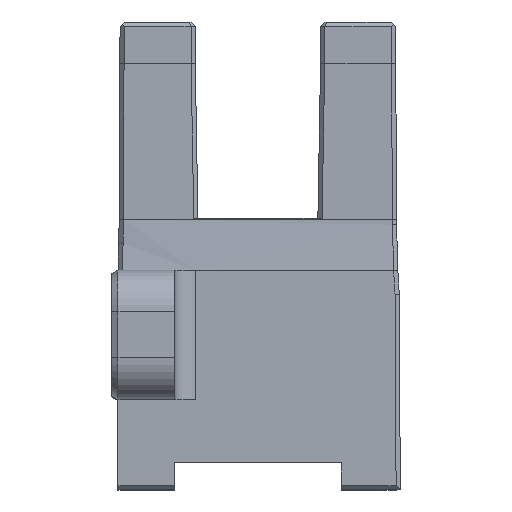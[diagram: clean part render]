
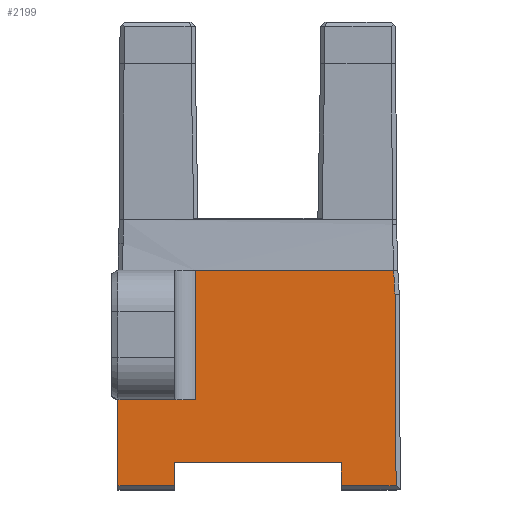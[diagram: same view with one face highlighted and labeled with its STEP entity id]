
A CAD part, top view. The second image highlights one B-rep face of the part: STEP entity #2199.
In plain terms, the highlighted planar face has unit normal (0, 0, 1).
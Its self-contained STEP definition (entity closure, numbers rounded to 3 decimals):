
#23 = DIRECTION ( 'NONE',  ( 0., 1., 0. ) ) ;
#78 = EDGE_CURVE ( 'NONE', #5127, #676, #1684, .T. ) ;
#124 = CARTESIAN_POINT ( 'NONE',  ( -3., 4.3, 3.2 ) ) ;
#182 = VERTEX_POINT ( 'NONE', #3178 ) ;
#214 = DIRECTION ( 'NONE',  ( 1., 0., 0. ) ) ;
#217 = AXIS2_PLACEMENT_3D ( 'NONE', #3069, #3538, #3085 ) ;
#272 = ORIENTED_EDGE ( 'NONE', *, *, #947, .F. ) ;
#292 = CIRCLE ( 'NONE', #2523, 50.2 ) ;
#326 = LINE ( 'NONE', #2356, #2591 ) ;
#341 = ORIENTED_EDGE ( 'NONE', *, *, #2312, .F. ) ;
#410 = LINE ( 'NONE', #2968, #3913 ) ;
#411 = CARTESIAN_POINT ( 'NONE',  ( 4., 0.2, 3.2 ) ) ;
#544 = DIRECTION ( 'NONE',  ( -0.005, 1., 0. ) ) ;
#676 = VERTEX_POINT ( 'NONE', #1127 ) ;
#696 = CARTESIAN_POINT ( 'NONE',  ( 56.64, 12.956, 3.2 ) ) ;
#708 = CARTESIAN_POINT ( 'NONE',  ( -4., 0., 3.2 ) ) ;
#712 = EDGE_CURVE ( 'NONE', #5127, #2606, #410, .T. ) ;
#780 = ORIENTED_EDGE ( 'NONE', *, *, #5330, .T. ) ;
#838 = PLANE ( 'NONE',  #217 ) ;
#890 = FACE_OUTER_BOUND ( 'NONE', #2409, .T. ) ;
#947 = EDGE_CURVE ( 'NONE', #5596, #1504, #5174, .T. ) ;
#1029 = LINE ( 'NONE', #4555, #2987 ) ;
#1049 = DIRECTION ( 'NONE',  ( -1., 0., 0. ) ) ;
#1127 = CARTESIAN_POINT ( 'NONE',  ( -6.7, 0.2, 3.2 ) ) ;
#1353 = LINE ( 'NONE', #5796, #1628 ) ;
#1391 = DIRECTION ( 'NONE',  ( 1., 0., 0. ) ) ;
#1504 = VERTEX_POINT ( 'NONE', #2088 ) ;
#1552 = EDGE_CURVE ( 'NONE', #5310, #2935, #2030, .T. ) ;
#1610 = VECTOR ( 'NONE', #4280, 1000. ) ;
#1628 = VECTOR ( 'NONE', #4134, 1000. ) ;
#1684 = LINE ( 'NONE', #3627, #4145 ) ;
#1734 = EDGE_CURVE ( 'NONE', #4162, #5596, #326, .T. ) ;
#2030 = LINE ( 'NONE', #2337, #2463 ) ;
#2088 = CARTESIAN_POINT ( 'NONE',  ( -4., 0.2, 3.2 ) ) ;
#2147 = CARTESIAN_POINT ( 'NONE',  ( 6.5, 10.5, 3.2 ) ) ;
#2199 = ADVANCED_FACE ( 'NONE', ( #890 ), #838, .T. ) ;
#2296 = VECTOR ( 'NONE', #4833, 1000. ) ;
#2302 = CARTESIAN_POINT ( 'NONE',  ( 4., 0., 3.2 ) ) ;
#2312 = EDGE_CURVE ( 'NONE', #4567, #4162, #3345, .T. ) ;
#2337 = CARTESIAN_POINT ( 'NONE',  ( 6.568, 9.371, 3.2 ) ) ;
#2356 = CARTESIAN_POINT ( 'NONE',  ( 0., 1.3, 3.2 ) ) ;
#2409 = EDGE_LOOP ( 'NONE', ( #5023, #5427, #3870, #780, #3212, #4130, #4370, #272, #4501, #341, #3374 ) ) ;
#2463 = VECTOR ( 'NONE', #544, 1000. ) ;
#2466 = EDGE_CURVE ( 'NONE', #676, #1504, #1029, .T. ) ;
#2523 = AXIS2_PLACEMENT_3D ( 'NONE', #696, #4662, #214 ) ;
#2585 = VECTOR ( 'NONE', #23, 1000. ) ;
#2591 = VECTOR ( 'NONE', #3227, 1000. ) ;
#2606 = VERTEX_POINT ( 'NONE', #124 ) ;
#2903 = EDGE_CURVE ( 'NONE', #4567, #5310, #4305, .T. ) ;
#2917 = VERTEX_POINT ( 'NONE', #2147 ) ;
#2935 = VERTEX_POINT ( 'NONE', #3056 ) ;
#2968 = CARTESIAN_POINT ( 'NONE',  ( -40.729, 4.3, 3.2 ) ) ;
#2987 = VECTOR ( 'NONE', #1391, 1000. ) ;
#3037 = CARTESIAN_POINT ( 'NONE',  ( 0., 0.2, 3.2 ) ) ;
#3056 = CARTESIAN_POINT ( 'NONE',  ( 6.568, 9.365, 3.2 ) ) ;
#3069 = CARTESIAN_POINT ( 'NONE',  ( 0., 0., 3.2 ) ) ;
#3085 = DIRECTION ( 'NONE',  ( 1., 0., 0. ) ) ;
#3166 = CARTESIAN_POINT ( 'NONE',  ( 4., 1.3, 3.2 ) ) ;
#3178 = CARTESIAN_POINT ( 'NONE',  ( -3., 10.5, 3.2 ) ) ;
#3212 = ORIENTED_EDGE ( 'NONE', *, *, #712, .F. ) ;
#3227 = DIRECTION ( 'NONE',  ( -1., 0., 0. ) ) ;
#3345 = LINE ( 'NONE', #2302, #2585 ) ;
#3366 = CARTESIAN_POINT ( 'NONE',  ( -4., 1.3, 3.2 ) ) ;
#3374 = ORIENTED_EDGE ( 'NONE', *, *, #2903, .T. ) ;
#3513 = CARTESIAN_POINT ( 'NONE',  ( -6.7, 4.3, 3.2 ) ) ;
#3538 = DIRECTION ( 'NONE',  ( 0., 0., 1. ) ) ;
#3627 = CARTESIAN_POINT ( 'NONE',  ( -6.7, 10.5, 3.2 ) ) ;
#3812 = VECTOR ( 'NONE', #1049, 1000. ) ;
#3870 = ORIENTED_EDGE ( 'NONE', *, *, #4843, .T. ) ;
#3913 = VECTOR ( 'NONE', #4720, 1000. ) ;
#3942 = LINE ( 'NONE', #5522, #3812 ) ;
#4130 = ORIENTED_EDGE ( 'NONE', *, *, #78, .T. ) ;
#4134 = DIRECTION ( 'NONE',  ( 0., -1., 0. ) ) ;
#4145 = VECTOR ( 'NONE', #4499, 1000. ) ;
#4162 = VERTEX_POINT ( 'NONE', #3166 ) ;
#4280 = DIRECTION ( 'NONE',  ( 0., -1., 0. ) ) ;
#4305 = LINE ( 'NONE', #3037, #2296 ) ;
#4370 = ORIENTED_EDGE ( 'NONE', *, *, #2466, .T. ) ;
#4499 = DIRECTION ( 'NONE',  ( 0., -1., 0. ) ) ;
#4501 = ORIENTED_EDGE ( 'NONE', *, *, #1734, .F. ) ;
#4555 = CARTESIAN_POINT ( 'NONE',  ( 0., 0.2, 3.2 ) ) ;
#4567 = VERTEX_POINT ( 'NONE', #411 ) ;
#4662 = DIRECTION ( 'NONE',  ( 0., 0., -1. ) ) ;
#4720 = DIRECTION ( 'NONE',  ( 1., 0., 0. ) ) ;
#4833 = DIRECTION ( 'NONE',  ( 1., 0., 0. ) ) ;
#4840 = CARTESIAN_POINT ( 'NONE',  ( 6.616, 0.2, 3.2 ) ) ;
#4843 = EDGE_CURVE ( 'NONE', #2917, #182, #3942, .T. ) ;
#4950 = EDGE_CURVE ( 'NONE', #2935, #2917, #292, .T. ) ;
#5023 = ORIENTED_EDGE ( 'NONE', *, *, #1552, .T. ) ;
#5127 = VERTEX_POINT ( 'NONE', #3513 ) ;
#5174 = LINE ( 'NONE', #708, #1610 ) ;
#5310 = VERTEX_POINT ( 'NONE', #4840 ) ;
#5330 = EDGE_CURVE ( 'NONE', #182, #2606, #1353, .T. ) ;
#5427 = ORIENTED_EDGE ( 'NONE', *, *, #4950, .T. ) ;
#5522 = CARTESIAN_POINT ( 'NONE',  ( -6.7, 10.5, 3.2 ) ) ;
#5596 = VERTEX_POINT ( 'NONE', #3366 ) ;
#5796 = CARTESIAN_POINT ( 'NONE',  ( -3., 0., 3.2 ) ) ;
